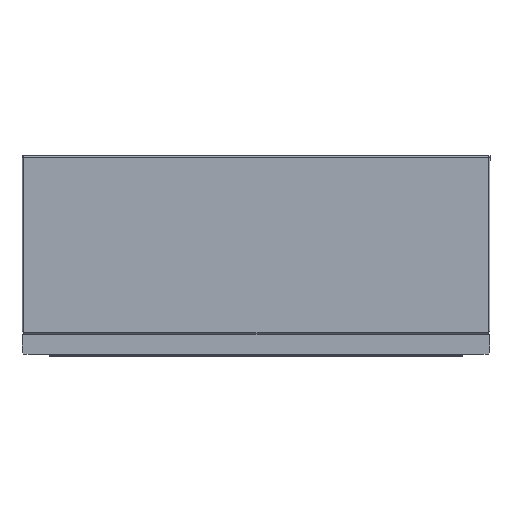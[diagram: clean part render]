
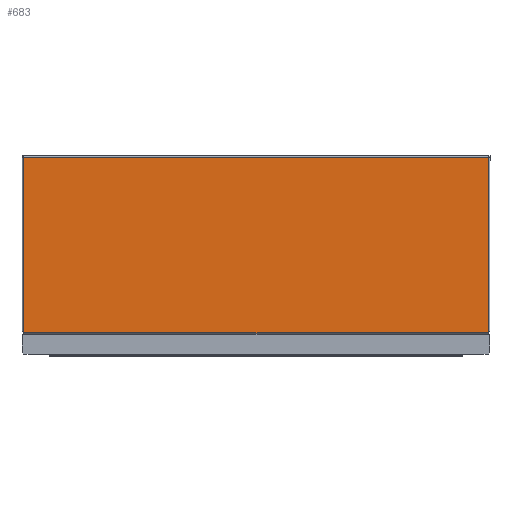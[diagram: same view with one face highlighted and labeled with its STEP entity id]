
A CAD part, front view. The second image highlights one B-rep face of the part: STEP entity #683.
In plain terms, the highlighted planar face has unit normal (0, -1, 0).
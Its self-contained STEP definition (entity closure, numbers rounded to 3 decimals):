
#43 = VERTEX_POINT ( 'NONE', #467 ) ;
#69 = VERTEX_POINT ( 'NONE', #457 ) ;
#82 = VERTEX_POINT ( 'NONE', #451 ) ;
#123 = DIRECTION ( 'NONE',  ( 1., 0., 0. ) ) ;
#124 = DIRECTION ( 'NONE',  ( 0., -1., 0. ) ) ;
#125 = CARTESIAN_POINT ( 'NONE',  ( -180., -6., 17. ) ) ;
#127 = PLANE ( 'NONE',  #1310 ) ;
#321 = VERTEX_POINT ( 'NONE', #385 ) ;
#337 = CARTESIAN_POINT ( 'NONE',  ( -179., -6., 17.5 ) ) ;
#344 = CARTESIAN_POINT ( 'NONE',  ( -179., -6., 152. ) ) ;
#348 = CARTESIAN_POINT ( 'NONE',  ( 178.5, -6., 17. ) ) ;
#351 = CARTESIAN_POINT ( 'NONE',  ( 179., -6., 151.5 ) ) ;
#375 = CARTESIAN_POINT ( 'NONE',  ( 179., -6., 152. ) ) ;
#378 = CARTESIAN_POINT ( 'NONE',  ( 179., -6., 17.5 ) ) ;
#385 = CARTESIAN_POINT ( 'NONE',  ( -178.5, -6., 17. ) ) ;
#451 = CARTESIAN_POINT ( 'NONE',  ( -178.5, -6., 17.5 ) ) ;
#457 = CARTESIAN_POINT ( 'NONE',  ( 178.5, -6., 17.5 ) ) ;
#467 = CARTESIAN_POINT ( 'NONE',  ( -179., -6., 151.5 ) ) ;
#494 = VERTEX_POINT ( 'NONE', #378 ) ;
#497 = VERTEX_POINT ( 'NONE', #375 ) ;
#532 = VERTEX_POINT ( 'NONE', #351 ) ;
#535 = VERTEX_POINT ( 'NONE', #348 ) ;
#539 = VERTEX_POINT ( 'NONE', #344 ) ;
#546 = VERTEX_POINT ( 'NONE', #337 ) ;
#575 = CARTESIAN_POINT ( 'NONE',  ( -179., -6., 170.385 ) ) ;
#576 = DIRECTION ( 'NONE',  ( 0., 0., -1. ) ) ;
#577 = CARTESIAN_POINT ( 'NONE',  ( -180., -6., 152. ) ) ;
#578 = DIRECTION ( 'NONE',  ( 1., 0., 0. ) ) ;
#579 = CARTESIAN_POINT ( 'NONE',  ( 179., -6., 170.385 ) ) ;
#580 = DIRECTION ( 'NONE',  ( 0., 0., -1. ) ) ;
#581 = CARTESIAN_POINT ( 'NONE',  ( 179., -6., 170.385 ) ) ;
#582 = DIRECTION ( 'NONE',  ( 0., 0., -1. ) ) ;
#593 = CARTESIAN_POINT ( 'NONE',  ( -179., -6., 170.385 ) ) ;
#594 = DIRECTION ( 'NONE',  ( 0., 0., -1. ) ) ;
#683 = ADVANCED_FACE ( 'NONE', ( #2046 ), #127, .T. ) ;
#873 = EDGE_LOOP ( 'NONE', ( #1975, #1974, #1973, #1972, #1971, #1970, #1969, #1968, #1967, #1966 ) ) ;
#952 = EDGE_CURVE ( 'NONE', #546, #82, #2118, .T. ) ;
#953 = EDGE_CURVE ( 'NONE', #82, #321, #2121, .T. ) ;
#954 = EDGE_CURVE ( 'NONE', #321, #535, #2123, .T. ) ;
#955 = EDGE_CURVE ( 'NONE', #535, #69, #2125, .T. ) ;
#956 = EDGE_CURVE ( 'NONE', #69, #494, #2127, .T. ) ;
#1269 = EDGE_CURVE ( 'NONE', #539, #43, #2427, .T. ) ;
#1270 = EDGE_CURVE ( 'NONE', #539, #497, #2429, .T. ) ;
#1271 = EDGE_CURVE ( 'NONE', #497, #532, #2431, .T. ) ;
#1272 = EDGE_CURVE ( 'NONE', #532, #494, #2433, .T. ) ;
#1310 = AXIS2_PLACEMENT_3D ( 'NONE', #125, #124, #123 ) ;
#1406 = EDGE_CURVE ( 'NONE', #43, #546, #2445, .T. ) ;
#1637 = DIRECTION ( 'NONE',  ( 1., 0., 0. ) ) ;
#1638 = CARTESIAN_POINT ( 'NONE',  ( 178.5, -6., 17.5 ) ) ;
#1640 = DIRECTION ( 'NONE',  ( 0., 0., 1. ) ) ;
#1641 = CARTESIAN_POINT ( 'NONE',  ( 178.5, -6., 15.3 ) ) ;
#1643 = DIRECTION ( 'NONE',  ( 1., 0., 0. ) ) ;
#1644 = CARTESIAN_POINT ( 'NONE',  ( -180., -6., 17. ) ) ;
#1646 = DIRECTION ( 'NONE',  ( 0., 0., -1. ) ) ;
#1647 = CARTESIAN_POINT ( 'NONE',  ( -178.5, -6., 17.5 ) ) ;
#1649 = DIRECTION ( 'NONE',  ( 1., 0., 0. ) ) ;
#1650 = CARTESIAN_POINT ( 'NONE',  ( -180., -6., 17.5 ) ) ;
#1966 = ORIENTED_EDGE ( 'NONE', *, *, #1269, .T. ) ;
#1967 = ORIENTED_EDGE ( 'NONE', *, *, #1270, .F. ) ;
#1968 = ORIENTED_EDGE ( 'NONE', *, *, #1271, .F. ) ;
#1969 = ORIENTED_EDGE ( 'NONE', *, *, #1272, .F. ) ;
#1970 = ORIENTED_EDGE ( 'NONE', *, *, #956, .T. ) ;
#1971 = ORIENTED_EDGE ( 'NONE', *, *, #955, .T. ) ;
#1972 = ORIENTED_EDGE ( 'NONE', *, *, #954, .T. ) ;
#1973 = ORIENTED_EDGE ( 'NONE', *, *, #953, .T. ) ;
#1974 = ORIENTED_EDGE ( 'NONE', *, *, #952, .T. ) ;
#1975 = ORIENTED_EDGE ( 'NONE', *, *, #1406, .T. ) ;
#2046 = FACE_OUTER_BOUND ( 'NONE', #873, .T. ) ;
#2118 = LINE ( 'NONE', #1650, #2120 ) ;
#2120 = VECTOR ( 'NONE', #1649, 1000. ) ;
#2121 = LINE ( 'NONE', #1647, #2122 ) ;
#2122 = VECTOR ( 'NONE', #1646, 1000. ) ;
#2123 = LINE ( 'NONE', #1644, #2124 ) ;
#2124 = VECTOR ( 'NONE', #1643, 1000. ) ;
#2125 = LINE ( 'NONE', #1641, #2126 ) ;
#2126 = VECTOR ( 'NONE', #1640, 1000. ) ;
#2127 = LINE ( 'NONE', #1638, #2128 ) ;
#2128 = VECTOR ( 'NONE', #1637, 1000. ) ;
#2427 = LINE ( 'NONE', #575, #2428 ) ;
#2428 = VECTOR ( 'NONE', #576, 1000. ) ;
#2429 = LINE ( 'NONE', #577, #2430 ) ;
#2430 = VECTOR ( 'NONE', #578, 1000. ) ;
#2431 = LINE ( 'NONE', #579, #2432 ) ;
#2432 = VECTOR ( 'NONE', #580, 1000. ) ;
#2433 = LINE ( 'NONE', #581, #2434 ) ;
#2434 = VECTOR ( 'NONE', #582, 1000. ) ;
#2445 = LINE ( 'NONE', #593, #2446 ) ;
#2446 = VECTOR ( 'NONE', #594, 1000. ) ;
